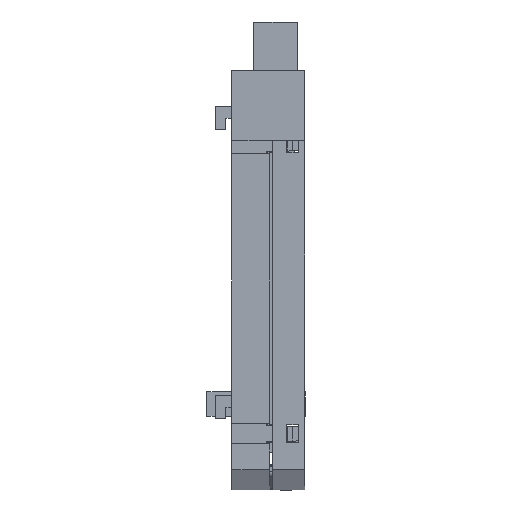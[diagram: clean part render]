
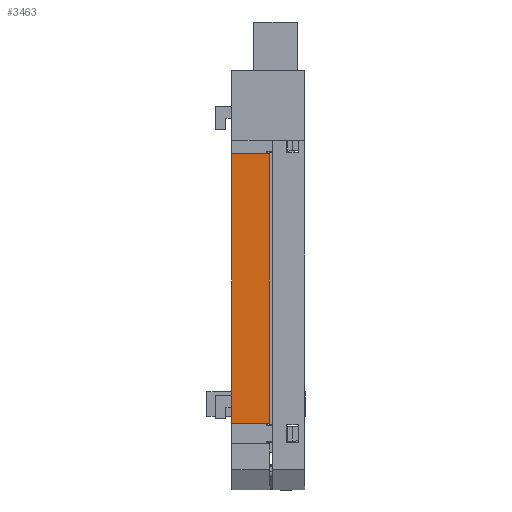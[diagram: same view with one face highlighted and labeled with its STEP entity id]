
A CAD part, front view. The second image highlights one B-rep face of the part: STEP entity #3463.
In plain terms, the highlighted planar face has unit normal (0, -1, 0).
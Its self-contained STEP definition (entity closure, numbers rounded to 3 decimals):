
#213 = FACE_OUTER_BOUND ( 'NONE', #27278, .T. ) ;
#880 = LINE ( 'NONE', #3337, #27680 ) ;
#2651 = CARTESIAN_POINT ( 'NONE',  ( 0., 0., -57.349 ) ) ;
#3261 = LINE ( 'NONE', #4072, #23176 ) ;
#3337 = CARTESIAN_POINT ( 'NONE',  ( 6.5, 0., 0. ) ) ;
#3463 = ADVANCED_FACE ( 'NONE', ( #213 ), #22435, .F. ) ;
#4072 = CARTESIAN_POINT ( 'NONE',  ( 0., 0., -11.141 ) ) ;
#4376 = AXIS2_PLACEMENT_3D ( 'NONE', #6867, #27628, #12119 ) ;
#5272 = VECTOR ( 'NONE', #23760, 1000. ) ;
#6500 = VECTOR ( 'NONE', #31201, 1000. ) ;
#6512 = CARTESIAN_POINT ( 'NONE',  ( 6.5, 0., -57.349 ) ) ;
#6867 = CARTESIAN_POINT ( 'NONE',  ( 7., 0., 0. ) ) ;
#8714 = DIRECTION ( 'NONE',  ( 0., 0., -1. ) ) ;
#8965 = EDGE_CURVE ( 'NONE', #18897, #28515, #880, .T. ) ;
#9472 = EDGE_CURVE ( 'NONE', #21010, #28515, #32577, .T. ) ;
#11943 = DIRECTION ( 'NONE',  ( 1., 0., 0. ) ) ;
#12119 = DIRECTION ( 'NONE',  ( 0., 0., 1. ) ) ;
#12638 = ORIENTED_EDGE ( 'NONE', *, *, #17309, .F. ) ;
#17309 = EDGE_CURVE ( 'NONE', #30819, #18897, #3261, .T. ) ;
#18897 = VERTEX_POINT ( 'NONE', #26995 ) ;
#21010 = VERTEX_POINT ( 'NONE', #27897 ) ;
#21159 = CARTESIAN_POINT ( 'NONE',  ( 0., 0., 0. ) ) ;
#22016 = ORIENTED_EDGE ( 'NONE', *, *, #9472, .T. ) ;
#22435 = PLANE ( 'NONE',  #4376 ) ;
#23176 = VECTOR ( 'NONE', #11943, 1000. ) ;
#23760 = DIRECTION ( 'NONE',  ( 0., 0., -1. ) ) ;
#25204 = LINE ( 'NONE', #21159, #5272 ) ;
#25649 = EDGE_CURVE ( 'NONE', #30819, #21010, #25204, .T. ) ;
#25790 = ORIENTED_EDGE ( 'NONE', *, *, #25649, .T. ) ;
#26995 = CARTESIAN_POINT ( 'NONE',  ( 6.5, 0., -11.141 ) ) ;
#27278 = EDGE_LOOP ( 'NONE', ( #25790, #22016, #32754, #12638 ) ) ;
#27628 = DIRECTION ( 'NONE',  ( 0., 1., 0. ) ) ;
#27680 = VECTOR ( 'NONE', #8714, 1000. ) ;
#27897 = CARTESIAN_POINT ( 'NONE',  ( 0., 0., -57.349 ) ) ;
#28515 = VERTEX_POINT ( 'NONE', #6512 ) ;
#29599 = CARTESIAN_POINT ( 'NONE',  ( 0., 0., -11.141 ) ) ;
#30819 = VERTEX_POINT ( 'NONE', #29599 ) ;
#31201 = DIRECTION ( 'NONE',  ( 1., 0., 0. ) ) ;
#32577 = LINE ( 'NONE', #2651, #6500 ) ;
#32754 = ORIENTED_EDGE ( 'NONE', *, *, #8965, .F. ) ;
